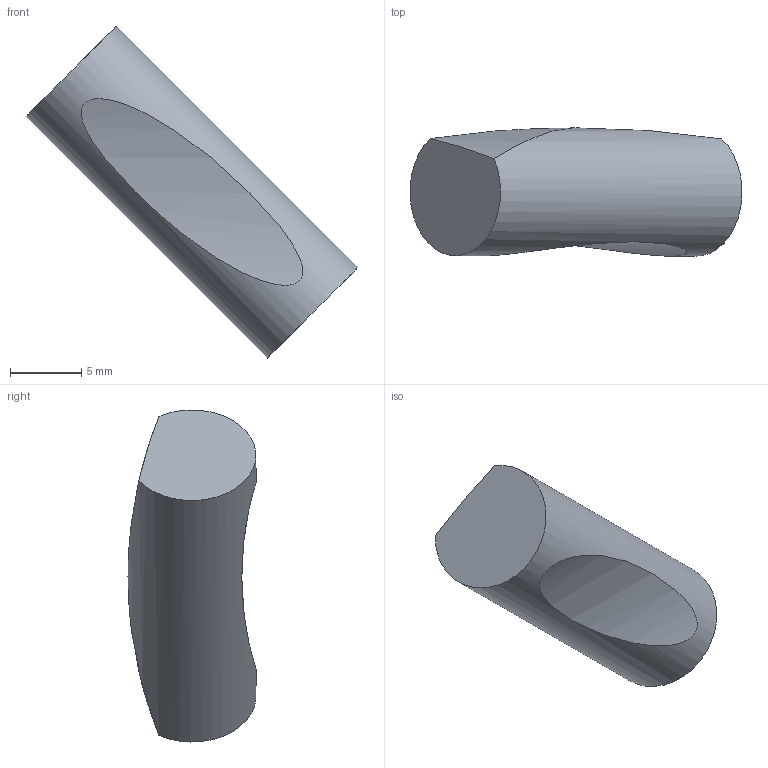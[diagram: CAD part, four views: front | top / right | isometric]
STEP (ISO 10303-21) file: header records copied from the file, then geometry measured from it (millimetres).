
FILE_DESCRIPTION(('Open CASCADE Model'),'2;1');
FILE_NAME('Open CASCADE Shape Model','2026-11-24T19:57:38',('Author'),( 'Open CASCADE'),'Open CASCADE STEP processor 7.8','Open CASCADE 7.8' ,'Unknown');
FILE_SCHEMA(('AUTOMOTIVE_DESIGN { 1 0 10303 214 1 1 1 1 }'));
Length unit declared in the file: millimetre
Products named in the file (1): Open CASCADE STEP translator 7.8 16
Bounding box: 23.32 x 9 x 23.33 mm (x, y, z)
Volume: 1447.9 mm3; surface area: 786.2 mm2
Topology: 1 solids, 1 shells, 6 faces, 9 edges, 6 vertices
Faces by surface type: cylinder 4, plane 2
Full cylindrical faces by diameter (mm): 9 x1
Entity records: 827 total; most frequent: CARTESIAN_POINT 651, DIRECTION 22, ORIENTED_EDGE 18, PCURVE 18, DEFINITIONAL_REPRESENTATION 18, B_SPLINE_CURVE_WITH_KNOTS 17, AXIS2_PLACEMENT_3D 9, EDGE_CURVE 9
